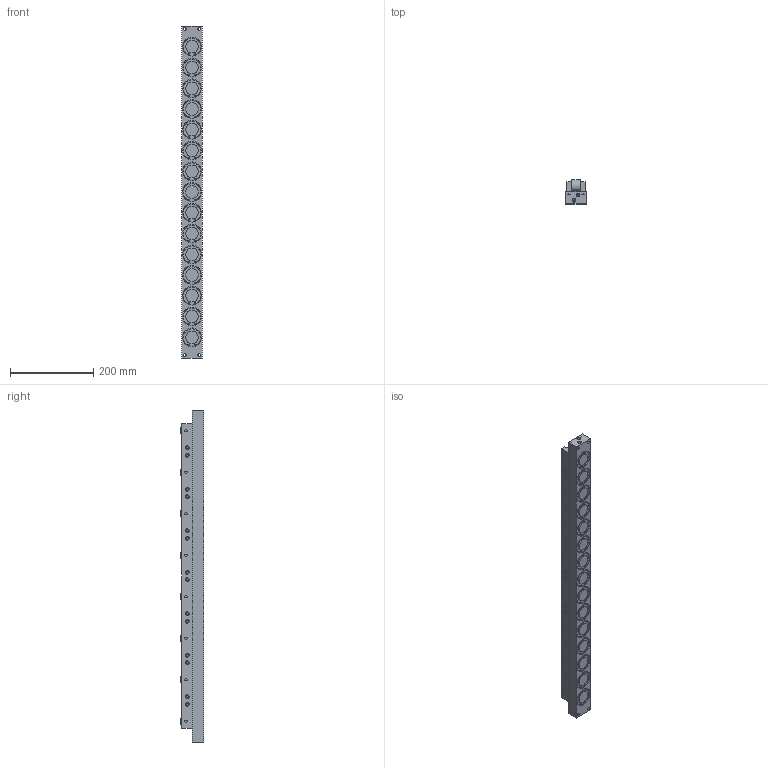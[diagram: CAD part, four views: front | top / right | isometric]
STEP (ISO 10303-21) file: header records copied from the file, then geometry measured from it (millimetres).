
FILE_DESCRIPTION (( 'STEP AP203' ), '1' );
FILE_NAME ('PVLR55SL-8.STEP', '2021-10-14T02:35:10', ( '' ), ( '' ), 'SwSTEP 2.0', 'SolidWorks 2013', '' );
FILE_SCHEMA (( 'CONFIG_CONTROL_DESIGN' ));
Length unit declared in the file: millimetre
Products named in the file (1): PVLR55SL-8
Bounding box: 49 x 57 x 800 mm (x, y, z)
Volume: 1650242 mm3; surface area: 316999.6 mm2
Topology: 2 solids, 2 shells, 1079 faces, 2657 edges, 1728 vertices
Faces by surface type: plane 573, cylinder 498, cone 8
Entity records: 32368 total; most frequent: DIRECTION 5967, CARTESIAN_POINT 5461, ORIENTED_EDGE 5306, EDGE_CURVE 2653, AXIS2_PLACEMENT_3D 2234, VERTEX_POINT 1728, VECTOR 1499, LINE 1499
